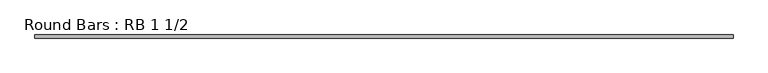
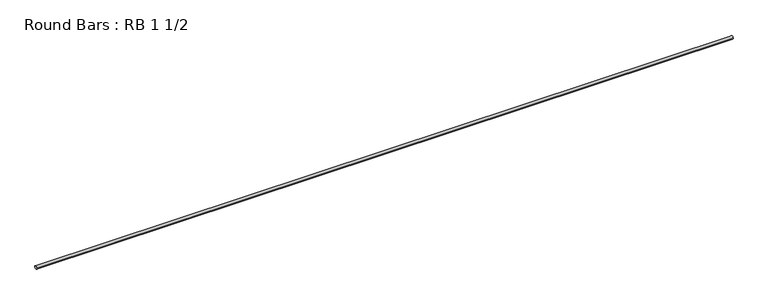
"""IFC4 building model written with IfcOpenShell, lengths in millimetres: member geometry, Round Bars : RB 1 1/2."""

from ifc_helpers import new_model, si_unit, point, frame, origin, origin_2d, place, context, project, spatial, circle_curve, trimmed, segment, composite_curve, outline, extrude, source, transform, mapped, element, save


def round_bars_rb_1_1_2_7c641387(model_context):
    return source(origin(), model_context, "Body", "SweptSolid", [
        extrude(outline(composite_curve([segment(trimmed(circle_curve(origin_2d(), 19.05), [point((19.05, 0.0))], [point((-19.05, 0.0))], False, "CARTESIAN"), True, "CONTINUOUS"), segment(trimmed(circle_curve(origin_2d(), 19.05), [point((-19.05, 0.0))], [point((19.05, 0.0))], False, "CARTESIAN"), True, "CONTINUOUS")], self_intersect=False)), frame((-4179.8273057, 0.0, 0.0), z_axis=(1.0, 0.0, 0.0), x_axis=(0.0, 1.0, 0.0)), (0.0, 0.0, 1.0), 8415.1606071),
    ])


if __name__ == "__main__":
    model = new_model("IFC4")
    model_context = context("Model", 3, world=origin())
    ifc_project = project(units=[si_unit("LENGTHUNIT", "METRE", prefix="MILLI")], contexts=[model_context])
    site = spatial("IfcSite", under=ifc_project)
    building = spatial("IfcBuilding", under=site)
    placement = place(None, origin())
    round_bars_rb_1_1_2_shape = round_bars_rb_1_1_2_7c641387(model_context)
    element("IfcMember", 1, ObjectType="Round Bars : RB 1 1/2", at=placement, inside=building, context=model_context, shape_type="MappedRepresentation", body=[
        mapped(round_bars_rb_1_1_2_shape, transform((0.0, 0.0, 0.0), x_axis=(1.0, 0.0, 0.0), y_axis=(0.0, 1.0, 0.0), z_axis=(0.0, 0.0, 1.0))),
    ])
    save(model, "model.ifc")
